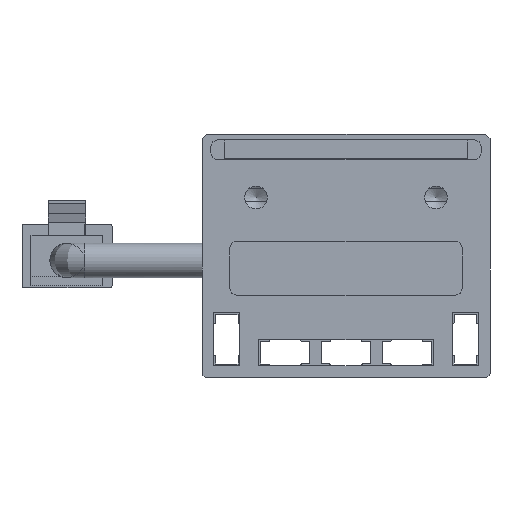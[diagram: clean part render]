
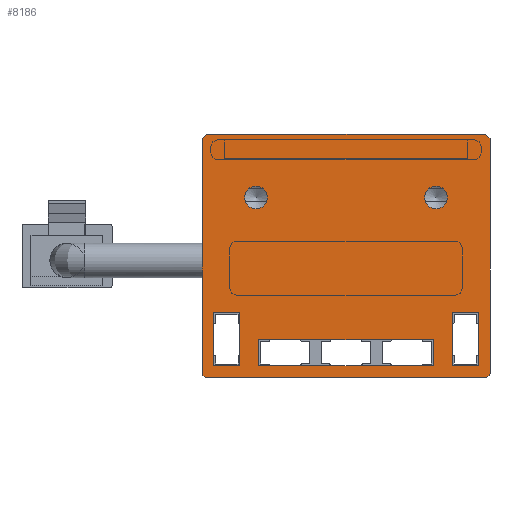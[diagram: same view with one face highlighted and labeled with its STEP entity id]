
A CAD part, front view. The second image highlights one B-rep face of the part: STEP entity #8186.
In plain terms, the highlighted planar face has unit normal (0, -1, 0).
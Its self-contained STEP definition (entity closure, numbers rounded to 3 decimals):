
#73=FACE_BOUND('',#1267,.T.);
#74=FACE_BOUND('',#1268,.T.);
#75=FACE_BOUND('',#1269,.T.);
#76=FACE_BOUND('',#1270,.T.);
#77=FACE_BOUND('',#1271,.T.);
#415=CIRCLE('',#8878,1.265);
#417=CIRCLE('',#8882,1.265);
#419=CIRCLE('',#8897,0.5);
#421=CIRCLE('',#8905,0.5);
#836=FACE_OUTER_BOUND('',#1266,.T.);
#1266=EDGE_LOOP('',(#7410,#7411,#7412,#7413,#7414,#7415,#7416,#7417));
#1267=EDGE_LOOP('',(#7418));
#1268=EDGE_LOOP('',(#7419));
#1269=EDGE_LOOP('',(#7420,#7421,#7422,#7423));
#1270=EDGE_LOOP('',(#7424,#7425,#7426,#7427));
#1271=EDGE_LOOP('',(#7428,#7429,#7430,#7431));
#2172=LINE('',#13450,#3109);
#2175=LINE('',#13456,#3112);
#2178=LINE('',#13462,#3115);
#2181=LINE('',#13466,#3118);
#2184=LINE('',#13474,#3121);
#2187=LINE('',#13480,#3124);
#2190=LINE('',#13486,#3127);
#2193=LINE('',#13490,#3130);
#2196=LINE('',#13498,#3133);
#2199=LINE('',#13504,#3136);
#2202=LINE('',#13510,#3139);
#2205=LINE('',#13514,#3142);
#2209=LINE('',#13528,#3146);
#2212=LINE('',#13534,#3149);
#2215=LINE('',#13540,#3152);
#2218=LINE('',#13546,#3155);
#2221=LINE('',#13552,#3158);
#2225=LINE('',#13562,#3162);
#3109=VECTOR('',#11065,10.);
#3112=VECTOR('',#11070,10.);
#3115=VECTOR('',#11075,10.);
#3118=VECTOR('',#11080,10.);
#3121=VECTOR('',#11085,10.);
#3124=VECTOR('',#11090,10.);
#3127=VECTOR('',#11095,10.);
#3130=VECTOR('',#11100,10.);
#3133=VECTOR('',#11105,10.);
#3136=VECTOR('',#11110,10.);
#3139=VECTOR('',#11115,10.);
#3142=VECTOR('',#11120,10.);
#3146=VECTOR('',#11132,10.);
#3149=VECTOR('',#11137,10.);
#3152=VECTOR('',#11142,10.);
#3155=VECTOR('',#11147,10.);
#3158=VECTOR('',#11152,10.);
#3162=VECTOR('',#11164,10.);
#3903=VERTEX_POINT('',#13431);
#3906=VERTEX_POINT('',#13440);
#3909=VERTEX_POINT('',#13447);
#3910=VERTEX_POINT('',#13449);
#3912=VERTEX_POINT('',#13455);
#3914=VERTEX_POINT('',#13461);
#3917=VERTEX_POINT('',#13471);
#3918=VERTEX_POINT('',#13473);
#3920=VERTEX_POINT('',#13479);
#3922=VERTEX_POINT('',#13485);
#3925=VERTEX_POINT('',#13495);
#3926=VERTEX_POINT('',#13497);
#3928=VERTEX_POINT('',#13503);
#3930=VERTEX_POINT('',#13509);
#3933=VERTEX_POINT('',#13519);
#3934=VERTEX_POINT('',#13521);
#3936=VERTEX_POINT('',#13527);
#3938=VERTEX_POINT('',#13533);
#3940=VERTEX_POINT('',#13539);
#3942=VERTEX_POINT('',#13545);
#3944=VERTEX_POINT('',#13551);
#3946=VERTEX_POINT('',#13557);
#5056=EDGE_CURVE('',#3903,#3903,#415,.T.);
#5060=EDGE_CURVE('',#3906,#3906,#417,.T.);
#5064=EDGE_CURVE('',#3910,#3909,#2172,.T.);
#5067=EDGE_CURVE('',#3912,#3910,#2175,.T.);
#5070=EDGE_CURVE('',#3914,#3912,#2178,.T.);
#5073=EDGE_CURVE('',#3909,#3914,#2181,.T.);
#5076=EDGE_CURVE('',#3918,#3917,#2184,.T.);
#5079=EDGE_CURVE('',#3920,#3918,#2187,.T.);
#5082=EDGE_CURVE('',#3922,#3920,#2190,.T.);
#5085=EDGE_CURVE('',#3917,#3922,#2193,.T.);
#5088=EDGE_CURVE('',#3926,#3925,#2196,.T.);
#5091=EDGE_CURVE('',#3928,#3926,#2199,.T.);
#5094=EDGE_CURVE('',#3930,#3928,#2202,.T.);
#5097=EDGE_CURVE('',#3925,#3930,#2205,.T.);
#5100=EDGE_CURVE('',#3934,#3933,#419,.T.);
#5103=EDGE_CURVE('',#3936,#3934,#2209,.T.);
#5106=EDGE_CURVE('',#3938,#3936,#2212,.T.);
#5109=EDGE_CURVE('',#3940,#3938,#2215,.T.);
#5112=EDGE_CURVE('',#3942,#3940,#2218,.T.);
#5115=EDGE_CURVE('',#3944,#3942,#2221,.T.);
#5118=EDGE_CURVE('',#3946,#3944,#421,.T.);
#5121=EDGE_CURVE('',#3933,#3946,#2225,.T.);
#7410=ORIENTED_EDGE('',*,*,#5121,.T.);
#7411=ORIENTED_EDGE('',*,*,#5118,.T.);
#7412=ORIENTED_EDGE('',*,*,#5115,.T.);
#7413=ORIENTED_EDGE('',*,*,#5112,.T.);
#7414=ORIENTED_EDGE('',*,*,#5109,.T.);
#7415=ORIENTED_EDGE('',*,*,#5106,.T.);
#7416=ORIENTED_EDGE('',*,*,#5103,.T.);
#7417=ORIENTED_EDGE('',*,*,#5100,.T.);
#7418=ORIENTED_EDGE('',*,*,#5056,.T.);
#7419=ORIENTED_EDGE('',*,*,#5060,.T.);
#7420=ORIENTED_EDGE('',*,*,#5097,.T.);
#7421=ORIENTED_EDGE('',*,*,#5094,.T.);
#7422=ORIENTED_EDGE('',*,*,#5091,.T.);
#7423=ORIENTED_EDGE('',*,*,#5088,.T.);
#7424=ORIENTED_EDGE('',*,*,#5085,.T.);
#7425=ORIENTED_EDGE('',*,*,#5082,.T.);
#7426=ORIENTED_EDGE('',*,*,#5079,.T.);
#7427=ORIENTED_EDGE('',*,*,#5076,.T.);
#7428=ORIENTED_EDGE('',*,*,#5073,.T.);
#7429=ORIENTED_EDGE('',*,*,#5070,.T.);
#7430=ORIENTED_EDGE('',*,*,#5067,.T.);
#7431=ORIENTED_EDGE('',*,*,#5064,.T.);
#7770=PLANE('',#8907);
#8186=ADVANCED_FACE('',(#836,#73,#74,#75,#76,#77),#7770,.T.);
#8878=AXIS2_PLACEMENT_3D('',#13432,#11048,#11049);
#8882=AXIS2_PLACEMENT_3D('',#13441,#11058,#11059);
#8897=AXIS2_PLACEMENT_3D('',#13522,#11126,#11127);
#8905=AXIS2_PLACEMENT_3D('',#13558,#11158,#11159);
#8907=AXIS2_PLACEMENT_3D('',#13563,#11165,#11166);
#11048=DIRECTION('center_axis',(0.,1.,0.));
#11049=DIRECTION('ref_axis',(0.,0.,-1.));
#11058=DIRECTION('center_axis',(0.,1.,0.));
#11059=DIRECTION('ref_axis',(0.,0.,-1.));
#11065=DIRECTION('',(0.,0.,-1.));
#11070=DIRECTION('',(1.,0.,0.));
#11075=DIRECTION('',(0.,0.,1.));
#11080=DIRECTION('',(-1.,0.,0.));
#11085=DIRECTION('',(0.,0.,-1.));
#11090=DIRECTION('',(1.,0.,0.));
#11095=DIRECTION('',(0.,0.,1.));
#11100=DIRECTION('',(-1.,0.,0.));
#11105=DIRECTION('',(0.,0.,-1.));
#11110=DIRECTION('',(1.,0.,0.));
#11115=DIRECTION('',(0.,0.,1.));
#11120=DIRECTION('',(-1.,0.,0.));
#11126=DIRECTION('center_axis',(0.,-1.,0.));
#11127=DIRECTION('ref_axis',(-1.,0.,0.));
#11132=DIRECTION('',(0.,0.,-1.));
#11137=DIRECTION('',(-0.707,0.,-0.707));
#11142=DIRECTION('',(-1.,0.,0.));
#11147=DIRECTION('',(-0.707,0.,0.707));
#11152=DIRECTION('',(0.,0.,1.));
#11158=DIRECTION('center_axis',(0.,-1.,0.));
#11159=DIRECTION('ref_axis',(0.,0.,-1.));
#11164=DIRECTION('',(1.,0.,0.));
#11165=DIRECTION('center_axis',(0.,-1.,0.));
#11166=DIRECTION('ref_axis',(1.,0.,0.));
#13431=CARTESIAN_POINT('',(-10.,-442.5,21.265));
#13432=CARTESIAN_POINT('Origin',(-10.,-442.5,20.));
#13440=CARTESIAN_POINT('',(10.,-442.5,21.265));
#13441=CARTESIAN_POINT('Origin',(10.,-442.5,20.));
#13447=CARTESIAN_POINT('',(9.7,-442.5,1.3));
#13449=CARTESIAN_POINT('',(9.7,-442.5,4.2));
#13450=CARTESIAN_POINT('',(9.7,-442.5,4.2));
#13455=CARTESIAN_POINT('',(-9.7,-442.5,4.2));
#13456=CARTESIAN_POINT('',(-9.7,-442.5,4.2));
#13461=CARTESIAN_POINT('',(-9.7,-442.5,1.3));
#13462=CARTESIAN_POINT('',(-9.7,-442.5,1.3));
#13466=CARTESIAN_POINT('',(9.7,-442.5,1.3));
#13471=CARTESIAN_POINT('',(-11.8,-442.5,1.3));
#13473=CARTESIAN_POINT('',(-11.8,-442.5,7.2));
#13474=CARTESIAN_POINT('',(-11.8,-442.5,7.2));
#13479=CARTESIAN_POINT('',(-14.7,-442.5,7.2));
#13480=CARTESIAN_POINT('',(-14.7,-442.5,7.2));
#13485=CARTESIAN_POINT('',(-14.7,-442.5,1.3));
#13486=CARTESIAN_POINT('',(-14.7,-442.5,1.3));
#13490=CARTESIAN_POINT('',(-11.8,-442.5,1.3));
#13495=CARTESIAN_POINT('',(14.7,-442.5,1.3));
#13497=CARTESIAN_POINT('',(14.7,-442.5,7.2));
#13498=CARTESIAN_POINT('',(14.7,-442.5,7.2));
#13503=CARTESIAN_POINT('',(11.8,-442.5,7.2));
#13504=CARTESIAN_POINT('',(11.8,-442.5,7.2));
#13509=CARTESIAN_POINT('',(11.8,-442.5,1.3));
#13510=CARTESIAN_POINT('',(11.8,-442.5,1.3));
#13514=CARTESIAN_POINT('',(14.7,-442.5,1.3));
#13519=CARTESIAN_POINT('',(-15.5,-442.5,0.));
#13521=CARTESIAN_POINT('',(-16.,-442.5,0.5));
#13522=CARTESIAN_POINT('Origin',(-15.5,-442.5,0.5));
#13527=CARTESIAN_POINT('',(-16.,-442.5,26.5));
#13528=CARTESIAN_POINT('',(-16.,-442.5,0.5));
#13533=CARTESIAN_POINT('',(-15.5,-442.5,27.));
#13534=CARTESIAN_POINT('',(-16.,-442.5,26.5));
#13539=CARTESIAN_POINT('',(15.5,-442.5,27.));
#13540=CARTESIAN_POINT('',(-15.5,-442.5,27.));
#13545=CARTESIAN_POINT('',(16.,-442.5,26.5));
#13546=CARTESIAN_POINT('',(15.5,-442.5,27.));
#13551=CARTESIAN_POINT('',(16.,-442.5,0.5));
#13552=CARTESIAN_POINT('',(16.,-442.5,26.5));
#13557=CARTESIAN_POINT('',(15.5,-442.5,0.));
#13558=CARTESIAN_POINT('Origin',(15.5,-442.5,0.5));
#13562=CARTESIAN_POINT('',(15.5,-442.5,0.));
#13563=CARTESIAN_POINT('Origin',(0.,-442.5,13.5));
